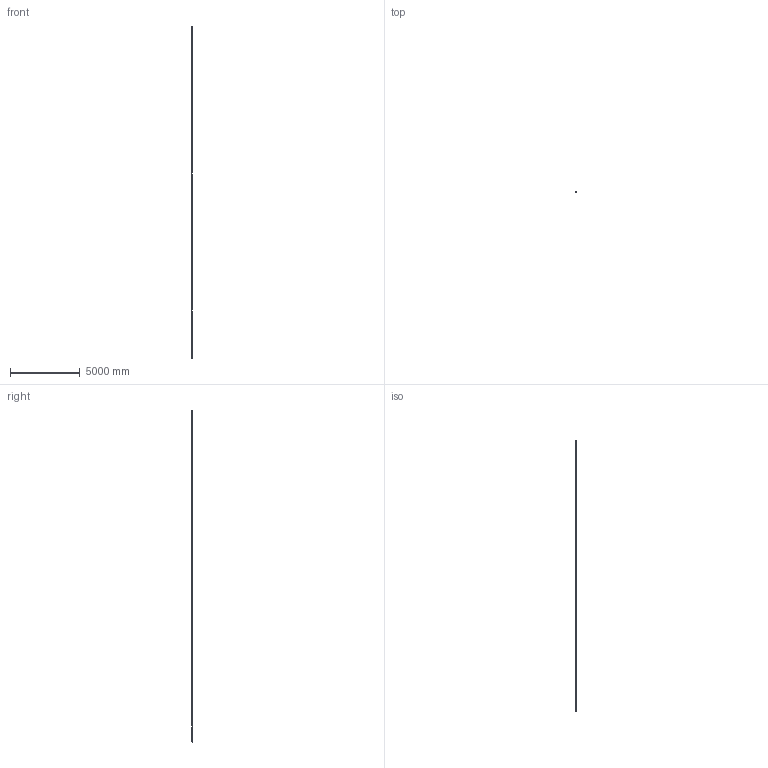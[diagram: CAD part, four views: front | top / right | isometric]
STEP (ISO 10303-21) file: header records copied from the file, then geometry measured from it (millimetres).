
FILE_DESCRIPTION(('Creo Elements/Direct Modeling STEP Export'),'2;1');
FILE_NAME('L-234.stp','2011-11-29T16:12:59',(''),(''),'Creo Elements/Direct Modeling STEP processor for AP214 (Solid Model)','Creo Elements/Direct Modeling 17.0C 05-Feb-2011 (C) Parametric Technology GmbH','');
FILE_SCHEMA(('AUTOMOTIVE_DESIGN { 1 0 10303 214 1 1 1 1 }'));
Length unit declared in the file: millimetre
Products named in the file (5): Modulos_intermedio_(FL-14).13; CABEZA; Modulo_der_(10-ET); Modulo_izq_(L-KT); L-234
Assembly tree (18 placements, depth 2):
  L-234
    Modulo_izq_(L-KT)
    Modulos_intermedio_(FL-14).13  x15
    Modulo_der_(10-ET)
    CABEZA
Bounding box: 51.5 x 87.95 x 23749.1 mm (x, y, z)
Volume: 57153145.5 mm3; surface area: 6964296 mm2
Topology: 39 solids, 184 shells, 10777 faces, 29908 edges, 19081 vertices
Faces by surface type: cylinder 4699, plane 4060, cone 846, torus 546, bspline 440, extrusion 160, sphere 26
Entity records: 124980 total; most frequent: CARTESIAN_POINT 35760, ORIENTED_EDGE 18834, DIRECTION 16782, EDGE_CURVE 9397, VERTEX_POINT 6087, AXIS2_PLACEMENT_3D 5937, VECTOR 4908, LINE 4888
